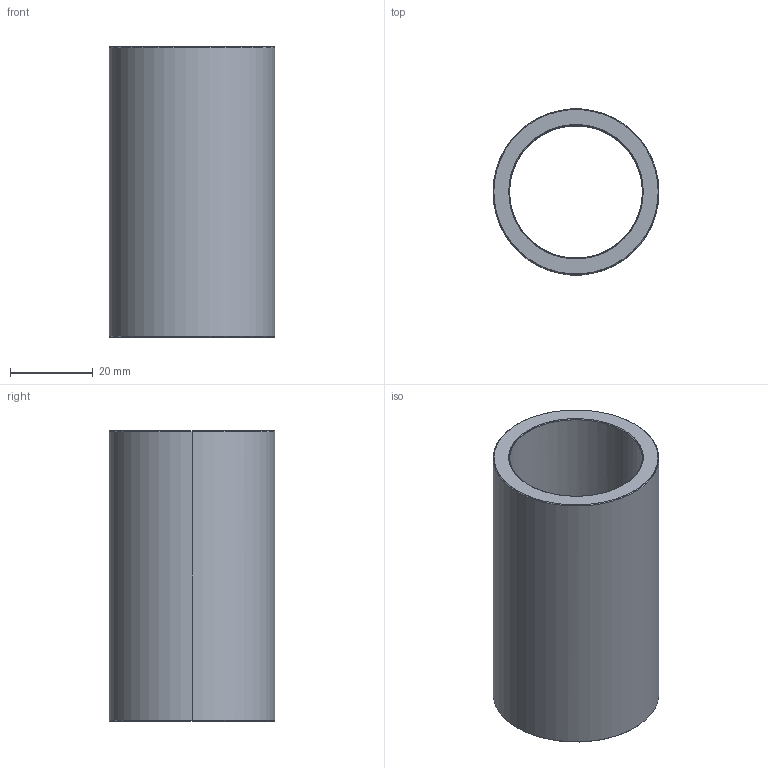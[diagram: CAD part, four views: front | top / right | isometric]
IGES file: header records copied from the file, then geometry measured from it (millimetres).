
Start section: Write IGES format                                    datakit 2008 (c)
Global section: file name: Unknown; native system: DATAKIT Converter; preprocessor: Unknown; author: Unknown; organization: Unknown; date: 950613.180003; units: millimetre
Bounding box: 40 x 39.91 x 70 mm (x, y, z)
Surface area: 16685.4 mm2 (no closed solid volume)
Topology: 0 solids, 0 shells, 14 faces, 56 edges, 56 vertices
Faces by surface type: revolution 12, bspline 2
